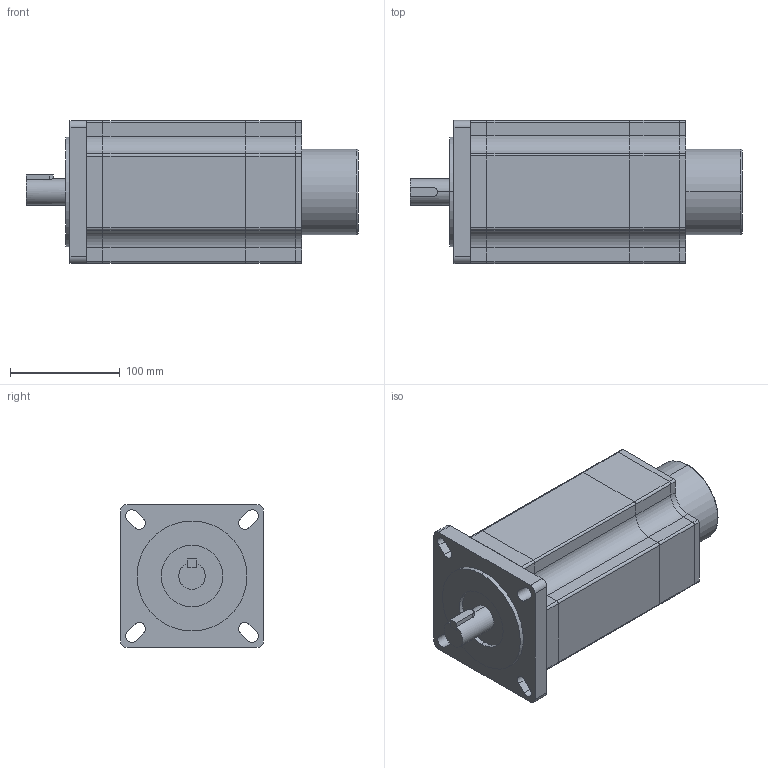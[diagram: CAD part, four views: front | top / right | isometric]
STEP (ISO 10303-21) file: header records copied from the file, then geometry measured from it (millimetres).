
FILE_DESCRIPTION (( 'STEP AP203' ), '1' );
FILE_NAME ('TM5401C68A-P1000.STEP', '2019-02-23T02:02:19', ( 'User' ), ( 'www.dadighost.com' ), 'SwSTEP 2.0', 'SolidWorks 2014', '' );
FILE_SCHEMA (( 'CONFIG_CONTROL_DESIGN' ));
Length unit declared in the file: millimetre
Products named in the file (1): TM5401C68A-P1000
Bounding box: 302 x 130 x 130 mm (x, y, z)
Volume: 3159008.2 mm3; surface area: 264059.6 mm2
Topology: 6 solids, 6 shells, 159 faces, 426 edges, 283 vertices
Faces by surface type: plane 82, cylinder 75, torus 2
Entity records: 5121 total; most frequent: CARTESIAN_POINT 903, DIRECTION 896, ORIENTED_EDGE 852, EDGE_CURVE 426, AXIS2_PLACEMENT_3D 312, VERTEX_POINT 283, VECTOR 272, LINE 272
